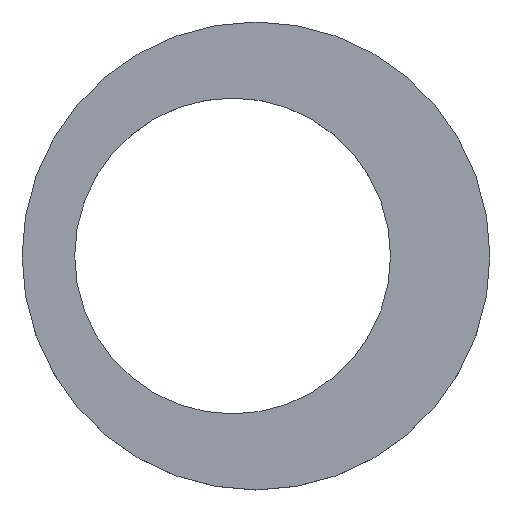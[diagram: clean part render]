
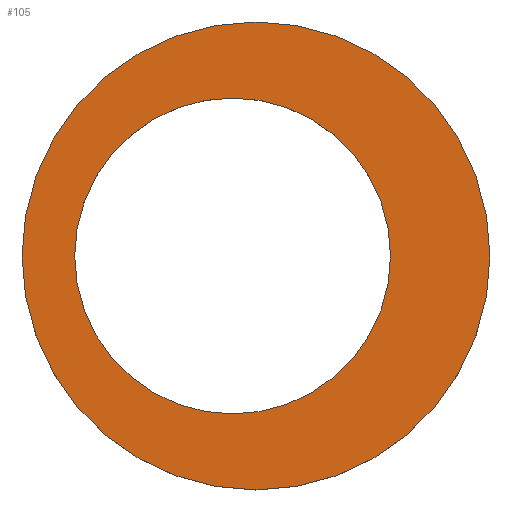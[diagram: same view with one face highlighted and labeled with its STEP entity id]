
A CAD part, top view. The second image highlights one B-rep face of the part: STEP entity #105.
In plain terms, the highlighted planar face has unit normal (0, 0, 1).
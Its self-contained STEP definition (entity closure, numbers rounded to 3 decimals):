
#21 = EDGE_CURVE('',#22,#22,#24,.T.);
#22 = VERTEX_POINT('',#23);
#23 = CARTESIAN_POINT('',(18.4,-19.,10.85));
#24 = SURFACE_CURVE('',#25,(#30,#42),.PCURVE_S1.);
#25 = CIRCLE('',#26,4.);
#26 = AXIS2_PLACEMENT_3D('',#27,#28,#29);
#27 = CARTESIAN_POINT('',(14.4,-19.,10.85));
#28 = DIRECTION('',(0.,0.,1.));
#29 = DIRECTION('',(1.,0.,-0.));
#30 = PCURVE('',#31,#36);
#31 = CYLINDRICAL_SURFACE('',#32,4.);
#32 = AXIS2_PLACEMENT_3D('',#33,#34,#35);
#33 = CARTESIAN_POINT('',(14.4,-19.,10.15));
#34 = DIRECTION('',(0.,0.,1.));
#35 = DIRECTION('',(1.,0.,-0.));
#36 = DEFINITIONAL_REPRESENTATION('',(#37),#41);
#37 = LINE('',#38,#39);
#38 = CARTESIAN_POINT('',(0.,0.7));
#39 = VECTOR('',#40,1.);
#40 = DIRECTION('',(1.,0.));
#41 = ( GEOMETRIC_REPRESENTATION_CONTEXT(2) 
PARAMETRIC_REPRESENTATION_CONTEXT() REPRESENTATION_CONTEXT('2D SPACE',''
  ) );
#42 = PCURVE('',#43,#48);
#43 = PLANE('',#44);
#44 = AXIS2_PLACEMENT_3D('',#45,#46,#47);
#45 = CARTESIAN_POINT('',(14.4,-19.,10.85));
#46 = DIRECTION('',(0.,0.,1.));
#47 = DIRECTION('',(1.,0.,-0.));
#48 = DEFINITIONAL_REPRESENTATION('',(#49),#53);
#49 = CIRCLE('',#50,4.);
#50 = AXIS2_PLACEMENT_2D('',#51,#52);
#51 = CARTESIAN_POINT('',(0.,0.));
#52 = DIRECTION('',(1.,0.));
#53 = ( GEOMETRIC_REPRESENTATION_CONTEXT(2) 
PARAMETRIC_REPRESENTATION_CONTEXT() REPRESENTATION_CONTEXT('2D SPACE',''
  ) );
#105 = ADVANCED_FACE('',(#106,#109),#43,.T.);
#106 = FACE_BOUND('',#107,.T.);
#107 = EDGE_LOOP('',(#108));
#108 = ORIENTED_EDGE('',*,*,#21,.T.);
#109 = FACE_BOUND('',#110,.T.);
#110 = EDGE_LOOP('',(#111));
#111 = ORIENTED_EDGE('',*,*,#112,.F.);
#112 = EDGE_CURVE('',#113,#113,#115,.T.);
#113 = VERTEX_POINT('',#114);
#114 = CARTESIAN_POINT('',(16.7,-19.,10.85));
#115 = SURFACE_CURVE('',#116,(#121,#128),.PCURVE_S1.);
#116 = CIRCLE('',#117,2.7);
#117 = AXIS2_PLACEMENT_3D('',#118,#119,#120);
#118 = CARTESIAN_POINT('',(14.,-19.,10.85));
#119 = DIRECTION('',(0.,0.,1.));
#120 = DIRECTION('',(1.,0.,-0.));
#121 = PCURVE('',#43,#122);
#122 = DEFINITIONAL_REPRESENTATION('',(#123),#127);
#123 = CIRCLE('',#124,2.7);
#124 = AXIS2_PLACEMENT_2D('',#125,#126);
#125 = CARTESIAN_POINT('',(-0.4,0.));
#126 = DIRECTION('',(1.,0.));
#127 = ( GEOMETRIC_REPRESENTATION_CONTEXT(2) 
PARAMETRIC_REPRESENTATION_CONTEXT() REPRESENTATION_CONTEXT('2D SPACE',''
  ) );
#128 = PCURVE('',#129,#134);
#129 = CYLINDRICAL_SURFACE('',#130,2.7);
#130 = AXIS2_PLACEMENT_3D('',#131,#132,#133);
#131 = CARTESIAN_POINT('',(14.,-19.,10.1));
#132 = DIRECTION('',(0.,0.,1.));
#133 = DIRECTION('',(1.,0.,-0.));
#134 = DEFINITIONAL_REPRESENTATION('',(#135),#139);
#135 = LINE('',#136,#137);
#136 = CARTESIAN_POINT('',(0.,0.75));
#137 = VECTOR('',#138,1.);
#138 = DIRECTION('',(1.,0.));
#139 = ( GEOMETRIC_REPRESENTATION_CONTEXT(2) 
PARAMETRIC_REPRESENTATION_CONTEXT() REPRESENTATION_CONTEXT('2D SPACE',''
  ) );
